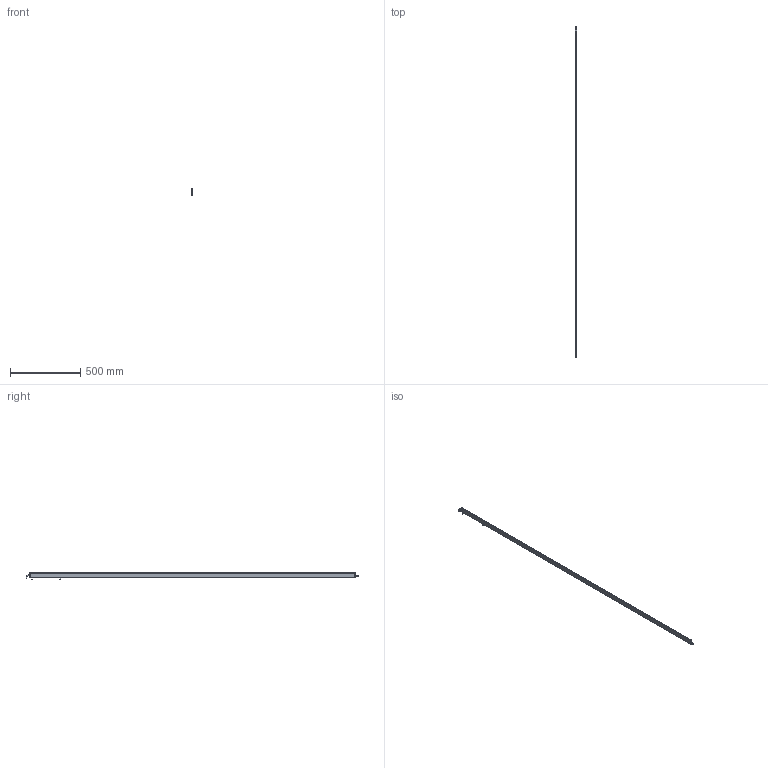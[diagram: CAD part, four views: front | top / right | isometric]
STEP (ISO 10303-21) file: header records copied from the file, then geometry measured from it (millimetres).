
FILE_DESCRIPTION (( 'STEP AP214' ), '1' );
FILE_NAME ('ILG-B-K1-2310mm.STEP', '2017-07-10T12:21:05', ( '' ), ( '' ), 'SwSTEP 2.0', 'SolidWorks 2016', '' );
FILE_SCHEMA (( 'AUTOMOTIVE_DESIGN' ));
Length unit declared in the file: millimetre
Products named in the file (1): ILG-B-K1-2310mm
Bounding box: 9 x 2358.25 x 46.21 mm (x, y, z)
Volume: 258142.1 mm3; surface area: 381195.8 mm2
Topology: 11 solids, 11 shells, 453 faces, 1150 edges, 724 vertices
Faces by surface type: plane 216, cylinder 152, cone 73, torus 12
Entity records: 18769 total; most frequent: CARTESIAN_POINT 2540, DIRECTION 2424, ORIENTED_EDGE 2284, EDGE_CURVE 1142, AXIS2_PLACEMENT_3D 896, VERTEX_POINT 724, LINE 632, VECTOR 632
